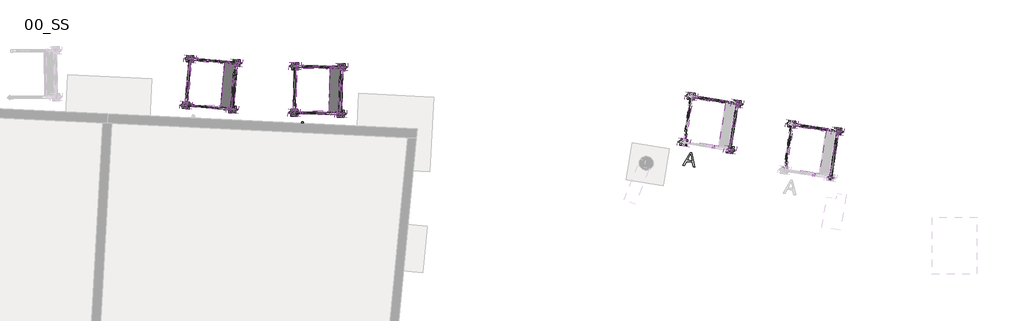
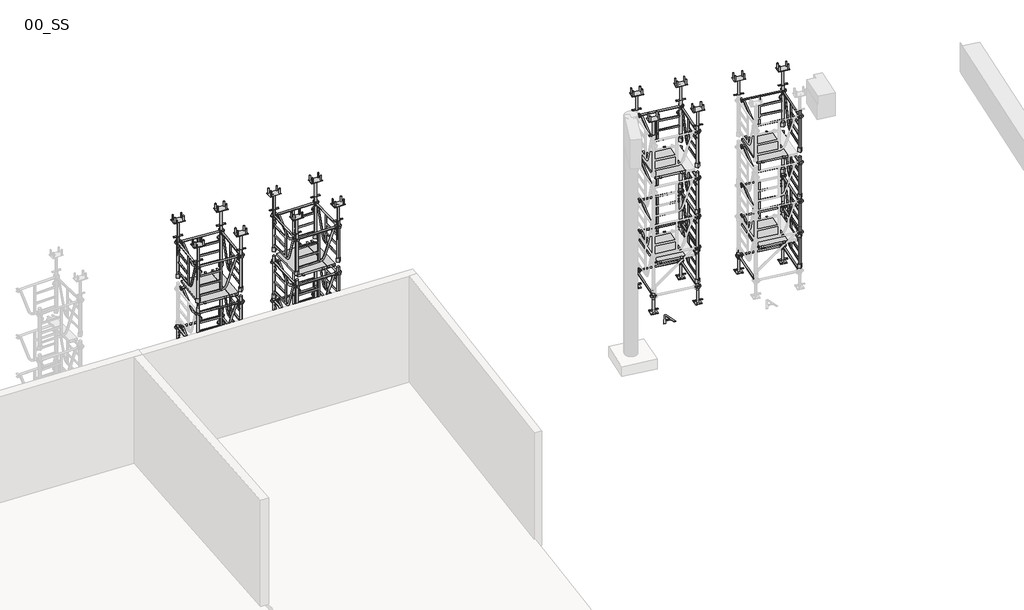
# One storey, part 4 of 4: 103 proxies.
"""IFC4 building model written with IfcOpenShell, lengths in millimetres."""

from ifc_helpers import new_model, si_unit, origin, place, context, project, spatial, transform, mapped, element, save
from components import specialty_equipment_552a99b2, specialty_equipment_3c7041e7, specialty_equipment_34e7ce4f, specialty_equipment_62a0565b, proxy_1_00m_e1a59707, proxy_1m_ea16eeb2, plancher_acier_0_25mx0_65m_c3080953, se_1_00mx1_00m_65cb5320

model = new_model("IFC4")

# Units and contexts
model_context = context("Model", 3, world=origin())
ifc_project = project(units=[si_unit("LENGTHUNIT", "METRE", prefix="MILLI")], contexts=[model_context])

# Site, building, storey
site = spatial("IfcSite", under=ifc_project)
building = spatial("IfcBuilding", under=site)
storey = spatial("IfcBuildingStorey", under=building, Name="00_SS", Elevation=18790.0)

# Proxies
placement = place(None, origin())
specialty_equipment_shape = specialty_equipment_552a99b2(model_context)
element("IfcBuildingElementProxy", 1, Name="MILLS_TOEC_CADRE_S : entree 1m", ObjectType="MILLS_TOEC_CADRE_S : entree 1m", at=placement, inside=storey, context=model_context, shape_type="MappedRepresentation", body=[
    mapped(specialty_equipment_shape, transform((5327.8783331, 16777.4730006, 19371.6), x_axis=(0.9997842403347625, -0.02077192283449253, 0.0), y_axis=(0.02077192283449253, 0.9997842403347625, 0.0), z_axis=(0.0, 0.0, 1.0))),
])
element("IfcBuildingElementProxy", 2, Name="MILLS_TOEC_CADRE_S : entree 1m", ObjectType="MILLS_TOEC_CADRE_S : entree 1m", at=placement, inside=storey, context=model_context, shape_type="MappedRepresentation", body=[
    mapped(specialty_equipment_shape, transform((3002.9416859, 16838.4419934, 19371.6), x_axis=(0.9961946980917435, -0.08715574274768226, 0.0), y_axis=(0.08715574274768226, 0.9961946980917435, 0.0), z_axis=(0.0, 0.0, 1.0))),
])
specialty_equipment_2_shape = specialty_equipment_3c7041e7(model_context)
element("IfcBuildingElementProxy", 3, Name="MILLS_TOEC_PLANCHER_TRAPPE_S : Trappe 1.0m", ObjectType="MILLS_TOEC_PLANCHER_TRAPPE_S : Trappe 1.0m", at=placement, inside=storey, context=model_context, shape_type="MappedRepresentation", body=[
    mapped(specialty_equipment_2_shape, transform((13893.1786414, 16661.799638, 20033.6), x_axis=(-0.987688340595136, 0.15643446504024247, 0.0), y_axis=(-0.15643446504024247, -0.987688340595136, 0.0), z_axis=(0.0, 0.0, 1.0))),
])
element("IfcBuildingElementProxy", 4, Name="MILLS_TOEC_PLANCHER_TRAPPE_S : Trappe 1.0m", ObjectType="MILLS_TOEC_PLANCHER_TRAPPE_S : Trappe 1.0m", at=placement, inside=storey, context=model_context, shape_type="MappedRepresentation", body=[
    mapped(specialty_equipment_2_shape, transform((13893.1786414, 16661.799638, 22233.6), x_axis=(-0.987688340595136, 0.15643446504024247, 0.0), y_axis=(-0.15643446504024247, -0.987688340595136, 0.0), z_axis=(0.0, 0.0, 1.0))),
])
element("IfcBuildingElementProxy", 5, Name="MILLS_TOEC_PLANCHER_TRAPPE_S : Trappe 1.0m", ObjectType="MILLS_TOEC_PLANCHER_TRAPPE_S : Trappe 1.0m", at=placement, inside=storey, context=model_context, shape_type="MappedRepresentation", body=[
    mapped(specialty_equipment_2_shape, transform((11737.9149743, 17255.3748967, 20033.6), x_axis=(-0.987688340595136, 0.15643446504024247, 0.0), y_axis=(-0.15643446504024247, -0.987688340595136, 0.0), z_axis=(0.0, 0.0, 1.0))),
])
element("IfcBuildingElementProxy", 6, Name="MILLS_TOEC_PLANCHER_TRAPPE_S : Trappe 1.0m", ObjectType="MILLS_TOEC_PLANCHER_TRAPPE_S : Trappe 1.0m", at=placement, inside=storey, context=model_context, shape_type="MappedRepresentation", body=[
    mapped(specialty_equipment_2_shape, transform((11737.9149743, 17255.3748967, 22233.6), x_axis=(-0.987688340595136, 0.15643446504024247, 0.0), y_axis=(-0.15643446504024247, -0.987688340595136, 0.0), z_axis=(0.0, 0.0, 1.0))),
])
element("IfcBuildingElementProxy", 7, Name="MILLS_TOEC_PLANCHER_TRAPPE_S : Trappe 1.0m", ObjectType="MILLS_TOEC_PLANCHER_TRAPPE_S : Trappe 1.0m", at=placement, inside=storey, context=model_context, shape_type="MappedRepresentation", body=[
    mapped(specialty_equipment_2_shape, transform((3241.6718591, 17821.544281, 20033.6), x_axis=(-0.9997842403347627, 0.02077192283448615, 0.0), y_axis=(-0.02077192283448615, -0.9997842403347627, 0.0), z_axis=(0.0, 0.0, 1.0))),
])
element("IfcBuildingElementProxy", 8, Name="MILLS_TOEC_PLANCHER_TRAPPE_S : Trappe 1.0m", ObjectType="MILLS_TOEC_PLANCHER_TRAPPE_S : Trappe 1.0m", at=placement, inside=storey, context=model_context, shape_type="MappedRepresentation", body=[
    mapped(specialty_equipment_2_shape, transform((3241.6718591, 17821.544281, 22233.6), x_axis=(-0.9997842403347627, 0.02077192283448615, 0.0), y_axis=(-0.02077192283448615, -0.9997842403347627, 0.0), z_axis=(0.0, 0.0, 1.0))),
])
element("IfcBuildingElementProxy", 9, Name="MILLS_TOEC_PLANCHER_TRAPPE_S : Trappe 1.0m", ObjectType="MILLS_TOEC_PLANCHER_TRAPPE_S : Trappe 1.0m", at=placement, inside=storey, context=model_context, shape_type="MappedRepresentation", body=[
    mapped(specialty_equipment_2_shape, transform((990.7177448, 18018.82206, 20033.6), x_axis=(-0.9961946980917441, 0.0871557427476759, 0.0), y_axis=(-0.0871557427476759, -0.9961946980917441, 0.0), z_axis=(0.0, 0.0, 1.0))),
])
element("IfcBuildingElementProxy", 10, Name="MILLS_TOEC_PLANCHER_TRAPPE_S : Trappe 1.0m", ObjectType="MILLS_TOEC_PLANCHER_TRAPPE_S : Trappe 1.0m", at=placement, inside=storey, context=model_context, shape_type="MappedRepresentation", body=[
    mapped(specialty_equipment_2_shape, transform((990.7177448, 18018.82206, 22233.6), x_axis=(-0.9961946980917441, 0.0871557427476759, 0.0), y_axis=(-0.0871557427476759, -0.9961946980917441, 0.0), z_axis=(0.0, 0.0, 1.0))),
])
specialty_equipment_3_shape = specialty_equipment_34e7ce4f(model_context)
element("IfcBuildingElementProxy", 11, Name="MILLS_TOEC_VERIN_DE_PIED_S : MILLS_TOEC_VERIN_DE_PIED", ObjectType="MILLS_TOEC_VERIN_DE_PIED_S : MILLS_TOEC_VERIN_DE_PIED", at=placement, inside=storey, context=model_context, shape_type="MappedRepresentation", body=[
    mapped(specialty_equipment_3_shape, transform((14591.0410313, 16551.2690939, 18790.0), x_axis=(0.987688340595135, -0.15643446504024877, 0.0), y_axis=(0.15643446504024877, 0.987688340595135, 0.0), z_axis=(0.0, 0.0, 1.0))),
])
element("IfcBuildingElementProxy", 12, Name="MILLS_TOEC_VERIN_DE_PIED_S : MILLS_TOEC_VERIN_DE_PIED", ObjectType="MILLS_TOEC_VERIN_DE_PIED_S : MILLS_TOEC_VERIN_DE_PIED", at=placement, inside=storey, context=model_context, shape_type="MappedRepresentation", body=[
    mapped(specialty_equipment_3_shape, transform((15578.7293719, 16394.8346289, 18790.0), x_axis=(0.987688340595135, -0.15643446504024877, 0.0), y_axis=(0.15643446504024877, 0.987688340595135, 0.0), z_axis=(0.0, 0.0, 1.0))),
])
element("IfcBuildingElementProxy", 13, Name="MILLS_TOEC_VERIN_DE_PIED_S : MILLS_TOEC_VERIN_DE_PIED", ObjectType="MILLS_TOEC_VERIN_DE_PIED_S : MILLS_TOEC_VERIN_DE_PIED", at=placement, inside=storey, context=model_context, shape_type="MappedRepresentation", body=[
    mapped(specialty_equipment_3_shape, transform((12279.3428992, 16157.156012, 18790.0), x_axis=(0.987688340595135, -0.15643446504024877, 0.0), y_axis=(0.15643446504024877, 0.987688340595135, 0.0), z_axis=(0.0, 0.0, 1.0))),
])
element("IfcBuildingElementProxy", 14, Name="MILLS_TOEC_VERIN_DE_PIED_S : MILLS_TOEC_VERIN_DE_PIED", ObjectType="MILLS_TOEC_VERIN_DE_PIED_S : MILLS_TOEC_VERIN_DE_PIED", at=placement, inside=storey, context=model_context, shape_type="MappedRepresentation", body=[
    mapped(specialty_equipment_3_shape, transform((13267.0312398, 16000.721547, 18790.0), x_axis=(0.987688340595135, -0.15643446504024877, 0.0), y_axis=(0.15643446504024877, 0.987688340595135, 0.0), z_axis=(0.0, 0.0, 1.0))),
])
element("IfcBuildingElementProxy", 15, Name="MILLS_TOEC_VERIN_DE_PIED_S : MILLS_TOEC_VERIN_DE_PIED", ObjectType="MILLS_TOEC_VERIN_DE_PIED_S : MILLS_TOEC_VERIN_DE_PIED", at=placement, inside=storey, context=model_context, shape_type="MappedRepresentation", body=[
    mapped(specialty_equipment_3_shape, transform((12435.7773643, 17144.8443526, 18790.0), x_axis=(0.987688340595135, -0.15643446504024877, 0.0), y_axis=(0.15643446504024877, 0.987688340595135, 0.0), z_axis=(0.0, 0.0, 1.0))),
])
element("IfcBuildingElementProxy", 16, Name="MILLS_TOEC_VERIN_DE_PIED_S : MILLS_TOEC_VERIN_DE_PIED", ObjectType="MILLS_TOEC_VERIN_DE_PIED_S : MILLS_TOEC_VERIN_DE_PIED", at=placement, inside=storey, context=model_context, shape_type="MappedRepresentation", body=[
    mapped(specialty_equipment_3_shape, transform((13423.4657048, 16988.4098876, 18790.0), x_axis=(0.987688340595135, -0.15643446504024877, 0.0), y_axis=(0.15643446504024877, 0.987688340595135, 0.0), z_axis=(0.0, 0.0, 1.0))),
])
element("IfcBuildingElementProxy", 17, Name="MILLS_TOEC_VERIN_DE_PIED_S : MILLS_TOEC_VERIN_DE_PIED", ObjectType="MILLS_TOEC_VERIN_DE_PIED_S : MILLS_TOEC_VERIN_DE_PIED", at=placement, inside=storey, context=model_context, shape_type="MappedRepresentation", body=[
    mapped(specialty_equipment_3_shape, transform((3927.3088212, 16807.0834031, 18790.0), x_axis=(0.9997842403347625, -0.02077192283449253, 0.0), y_axis=(0.02077192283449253, 0.9997842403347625, 0.0), z_axis=(0.0, 0.0, 1.0))),
])
element("IfcBuildingElementProxy", 18, Name="MILLS_TOEC_VERIN_DE_PIED_S : MILLS_TOEC_VERIN_DE_PIED", ObjectType="MILLS_TOEC_VERIN_DE_PIED_S : MILLS_TOEC_VERIN_DE_PIED", at=placement, inside=storey, context=model_context, shape_type="MappedRepresentation", body=[
    mapped(specialty_equipment_3_shape, transform((4927.0930615, 16786.3114803, 18790.0), x_axis=(0.9997842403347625, -0.02077192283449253, 0.0), y_axis=(0.02077192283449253, 0.9997842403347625, 0.0), z_axis=(0.0, 0.0, 1.0))),
])
element("IfcBuildingElementProxy", 19, Name="MILLS_TOEC_VERIN_DE_PIED_S : MILLS_TOEC_VERIN_DE_PIED", ObjectType="MILLS_TOEC_VERIN_DE_PIED_S : MILLS_TOEC_VERIN_DE_PIED", at=placement, inside=storey, context=model_context, shape_type="MappedRepresentation", body=[
    mapped(specialty_equipment_3_shape, transform((3948.080744, 17806.8676435, 18790.0), x_axis=(0.9997842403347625, -0.02077192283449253, 0.0), y_axis=(0.02077192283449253, 0.9997842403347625, 0.0), z_axis=(0.0, 0.0, 1.0))),
])
element("IfcBuildingElementProxy", 20, Name="MILLS_TOEC_VERIN_DE_PIED_S : MILLS_TOEC_VERIN_DE_PIED", ObjectType="MILLS_TOEC_VERIN_DE_PIED_S : MILLS_TOEC_VERIN_DE_PIED", at=placement, inside=storey, context=model_context, shape_type="MappedRepresentation", body=[
    mapped(specialty_equipment_3_shape, transform((4947.8649843, 17786.0957206, 18790.0), x_axis=(0.9997842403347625, -0.02077192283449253, 0.0), y_axis=(0.02077192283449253, 0.9997842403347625, 0.0), z_axis=(0.0, 0.0, 1.0))),
])
element("IfcBuildingElementProxy", 21, Name="MILLS_TOEC_VERIN_DE_PIED_S : MILLS_TOEC_VERIN_DE_PIED", ObjectType="MILLS_TOEC_VERIN_DE_PIED_S : MILLS_TOEC_VERIN_DE_PIED", at=placement, inside=storey, context=model_context, shape_type="MappedRepresentation", body=[
    mapped(specialty_equipment_3_shape, transform((1607.4346552, 16961.0464842, 18790.0), x_axis=(0.9961946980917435, -0.08715574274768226, 0.0), y_axis=(0.08715574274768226, 0.9961946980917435, 0.0), z_axis=(0.0, 0.0, 1.0))),
])
element("IfcBuildingElementProxy", 22, Name="MILLS_TOEC_VERIN_DE_PIED_S : MILLS_TOEC_VERIN_DE_PIED", ObjectType="MILLS_TOEC_VERIN_DE_PIED_S : MILLS_TOEC_VERIN_DE_PIED", at=placement, inside=storey, context=model_context, shape_type="MappedRepresentation", body=[
    mapped(specialty_equipment_3_shape, transform((2603.6293533, 16873.8907414, 18790.0), x_axis=(0.9961946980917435, -0.08715574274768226, 0.0), y_axis=(0.08715574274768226, 0.9961946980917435, 0.0), z_axis=(0.0, 0.0, 1.0))),
])
element("IfcBuildingElementProxy", 23, Name="MILLS_TOEC_VERIN_DE_PIED_S : MILLS_TOEC_VERIN_DE_PIED", ObjectType="MILLS_TOEC_VERIN_DE_PIED_S : MILLS_TOEC_VERIN_DE_PIED", at=placement, inside=storey, context=model_context, shape_type="MappedRepresentation", body=[
    mapped(specialty_equipment_3_shape, transform((1694.590398, 17957.2411823, 18790.0), x_axis=(0.9961946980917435, -0.08715574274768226, 0.0), y_axis=(0.08715574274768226, 0.9961946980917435, 0.0), z_axis=(0.0, 0.0, 1.0))),
])
element("IfcBuildingElementProxy", 24, Name="MILLS_TOEC_VERIN_DE_PIED_S : MILLS_TOEC_VERIN_DE_PIED", ObjectType="MILLS_TOEC_VERIN_DE_PIED_S : MILLS_TOEC_VERIN_DE_PIED", at=placement, inside=storey, context=model_context, shape_type="MappedRepresentation", body=[
    mapped(specialty_equipment_3_shape, transform((2690.7850961, 17870.0854395, 18790.0), x_axis=(0.9961946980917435, -0.08715574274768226, 0.0), y_axis=(0.08715574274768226, 0.9961946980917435, 0.0), z_axis=(0.0, 0.0, 1.0))),
])
specialty_equipment_4_shape = specialty_equipment_62a0565b(model_context)
element("IfcBuildingElementProxy", 25, Name="MILLS_TOEC_VERIN_DE_TETE_2_ENTREES_S : MILLS_TOEC_VERIN_DE_TETE_2_ENTREES_S", ObjectType="MILLS_TOEC_VERIN_DE_TETE_2_ENTREES_S : MILLS_TOEC_VERIN_DE_TETE_2_ENTREES_S", at=placement, inside=storey, context=model_context, shape_type="MappedRepresentation", body=[
    mapped(specialty_equipment_4_shape, transform((14591.0410313, 16551.2690939, 23532.0), x_axis=(0.987688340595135, -0.15643446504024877, 0.0), y_axis=(0.15643446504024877, 0.987688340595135, 0.0), z_axis=(0.0, 0.0, 1.0))),
])
element("IfcBuildingElementProxy", 26, Name="MILLS_TOEC_VERIN_DE_TETE_2_ENTREES_S : MILLS_TOEC_VERIN_DE_TETE_2_ENTREES_S", ObjectType="MILLS_TOEC_VERIN_DE_TETE_2_ENTREES_S : MILLS_TOEC_VERIN_DE_TETE_2_ENTREES_S", at=placement, inside=storey, context=model_context, shape_type="MappedRepresentation", body=[
    mapped(specialty_equipment_4_shape, transform((15578.7293719, 16394.8346289, 23532.0), x_axis=(0.987688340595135, -0.15643446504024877, 0.0), y_axis=(0.15643446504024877, 0.987688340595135, 0.0), z_axis=(0.0, 0.0, 1.0))),
])
element("IfcBuildingElementProxy", 27, Name="MILLS_TOEC_VERIN_DE_TETE_2_ENTREES_S : MILLS_TOEC_VERIN_DE_TETE_2_ENTREES_S", ObjectType="MILLS_TOEC_VERIN_DE_TETE_2_ENTREES_S : MILLS_TOEC_VERIN_DE_TETE_2_ENTREES_S", at=placement, inside=storey, context=model_context, shape_type="MappedRepresentation", body=[
    mapped(specialty_equipment_4_shape, transform((12279.3428992, 16157.156012, 23532.0), x_axis=(0.987688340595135, -0.15643446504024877, 0.0), y_axis=(0.15643446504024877, 0.987688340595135, 0.0), z_axis=(0.0, 0.0, 1.0))),
])
element("IfcBuildingElementProxy", 28, Name="MILLS_TOEC_VERIN_DE_TETE_2_ENTREES_S : MILLS_TOEC_VERIN_DE_TETE_2_ENTREES_S", ObjectType="MILLS_TOEC_VERIN_DE_TETE_2_ENTREES_S : MILLS_TOEC_VERIN_DE_TETE_2_ENTREES_S", at=placement, inside=storey, context=model_context, shape_type="MappedRepresentation", body=[
    mapped(specialty_equipment_4_shape, transform((13267.0312398, 16000.721547, 23532.0), x_axis=(0.987688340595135, -0.15643446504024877, 0.0), y_axis=(0.15643446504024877, 0.987688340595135, 0.0), z_axis=(0.0, 0.0, 1.0))),
])
element("IfcBuildingElementProxy", 29, Name="MILLS_TOEC_VERIN_DE_TETE_2_ENTREES_S : MILLS_TOEC_VERIN_DE_TETE_2_ENTREES_S", ObjectType="MILLS_TOEC_VERIN_DE_TETE_2_ENTREES_S : MILLS_TOEC_VERIN_DE_TETE_2_ENTREES_S", at=placement, inside=storey, context=model_context, shape_type="MappedRepresentation", body=[
    mapped(specialty_equipment_4_shape, transform((12435.7773643, 17144.8443526, 23532.0), x_axis=(0.987688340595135, -0.15643446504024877, 0.0), y_axis=(0.15643446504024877, 0.987688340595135, 0.0), z_axis=(0.0, 0.0, 1.0))),
])
element("IfcBuildingElementProxy", 30, Name="MILLS_TOEC_VERIN_DE_TETE_2_ENTREES_S : MILLS_TOEC_VERIN_DE_TETE_2_ENTREES_S", ObjectType="MILLS_TOEC_VERIN_DE_TETE_2_ENTREES_S : MILLS_TOEC_VERIN_DE_TETE_2_ENTREES_S", at=placement, inside=storey, context=model_context, shape_type="MappedRepresentation", body=[
    mapped(specialty_equipment_4_shape, transform((13423.4657048, 16988.4098876, 23532.0), x_axis=(0.987688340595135, -0.15643446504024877, 0.0), y_axis=(0.15643446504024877, 0.987688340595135, 0.0), z_axis=(0.0, 0.0, 1.0))),
])
element("IfcBuildingElementProxy", 31, Name="MILLS_TOEC_VERIN_DE_TETE_2_ENTREES_S : MILLS_TOEC_VERIN_DE_TETE_2_ENTREES_S", ObjectType="MILLS_TOEC_VERIN_DE_TETE_2_ENTREES_S : MILLS_TOEC_VERIN_DE_TETE_2_ENTREES_S", at=placement, inside=storey, context=model_context, shape_type="MappedRepresentation", body=[
    mapped(specialty_equipment_4_shape, transform((3927.3088212, 16807.0834031, 23532.0), x_axis=(0.9997842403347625, -0.02077192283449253, 0.0), y_axis=(0.02077192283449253, 0.9997842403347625, 0.0), z_axis=(0.0, 0.0, 1.0))),
])
element("IfcBuildingElementProxy", 32, Name="MILLS_TOEC_VERIN_DE_TETE_2_ENTREES_S : MILLS_TOEC_VERIN_DE_TETE_2_ENTREES_S", ObjectType="MILLS_TOEC_VERIN_DE_TETE_2_ENTREES_S : MILLS_TOEC_VERIN_DE_TETE_2_ENTREES_S", at=placement, inside=storey, context=model_context, shape_type="MappedRepresentation", body=[
    mapped(specialty_equipment_4_shape, transform((4927.0930615, 16786.3114803, 23532.0), x_axis=(0.9997842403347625, -0.02077192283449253, 0.0), y_axis=(0.02077192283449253, 0.9997842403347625, 0.0), z_axis=(0.0, 0.0, 1.0))),
])
element("IfcBuildingElementProxy", 33, Name="MILLS_TOEC_VERIN_DE_TETE_2_ENTREES_S : MILLS_TOEC_VERIN_DE_TETE_2_ENTREES_S", ObjectType="MILLS_TOEC_VERIN_DE_TETE_2_ENTREES_S : MILLS_TOEC_VERIN_DE_TETE_2_ENTREES_S", at=placement, inside=storey, context=model_context, shape_type="MappedRepresentation", body=[
    mapped(specialty_equipment_4_shape, transform((3948.080744, 17806.8676435, 23532.0), x_axis=(0.9997842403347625, -0.02077192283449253, 0.0), y_axis=(0.02077192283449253, 0.9997842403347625, 0.0), z_axis=(0.0, 0.0, 1.0))),
])
element("IfcBuildingElementProxy", 34, Name="MILLS_TOEC_VERIN_DE_TETE_2_ENTREES_S : MILLS_TOEC_VERIN_DE_TETE_2_ENTREES_S", ObjectType="MILLS_TOEC_VERIN_DE_TETE_2_ENTREES_S : MILLS_TOEC_VERIN_DE_TETE_2_ENTREES_S", at=placement, inside=storey, context=model_context, shape_type="MappedRepresentation", body=[
    mapped(specialty_equipment_4_shape, transform((4947.8649843, 17786.0957206, 23532.0), x_axis=(0.9997842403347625, -0.02077192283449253, 0.0), y_axis=(0.02077192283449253, 0.9997842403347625, 0.0), z_axis=(0.0, 0.0, 1.0))),
])
element("IfcBuildingElementProxy", 35, Name="MILLS_TOEC_VERIN_DE_TETE_2_ENTREES_S : MILLS_TOEC_VERIN_DE_TETE_2_ENTREES_S", ObjectType="MILLS_TOEC_VERIN_DE_TETE_2_ENTREES_S : MILLS_TOEC_VERIN_DE_TETE_2_ENTREES_S", at=placement, inside=storey, context=model_context, shape_type="MappedRepresentation", body=[
    mapped(specialty_equipment_4_shape, transform((1607.4346552, 16961.0464842, 23532.0), x_axis=(0.9961946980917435, -0.08715574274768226, 0.0), y_axis=(0.08715574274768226, 0.9961946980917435, 0.0), z_axis=(0.0, 0.0, 1.0))),
])
element("IfcBuildingElementProxy", 36, Name="MILLS_TOEC_VERIN_DE_TETE_2_ENTREES_S : MILLS_TOEC_VERIN_DE_TETE_2_ENTREES_S", ObjectType="MILLS_TOEC_VERIN_DE_TETE_2_ENTREES_S : MILLS_TOEC_VERIN_DE_TETE_2_ENTREES_S", at=placement, inside=storey, context=model_context, shape_type="MappedRepresentation", body=[
    mapped(specialty_equipment_4_shape, transform((2603.6293533, 16873.8907414, 23532.0), x_axis=(0.9961946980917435, -0.08715574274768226, 0.0), y_axis=(0.08715574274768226, 0.9961946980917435, 0.0), z_axis=(0.0, 0.0, 1.0))),
])
element("IfcBuildingElementProxy", 37, Name="MILLS_TOEC_VERIN_DE_TETE_2_ENTREES_S : MILLS_TOEC_VERIN_DE_TETE_2_ENTREES_S", ObjectType="MILLS_TOEC_VERIN_DE_TETE_2_ENTREES_S : MILLS_TOEC_VERIN_DE_TETE_2_ENTREES_S", at=placement, inside=storey, context=model_context, shape_type="MappedRepresentation", body=[
    mapped(specialty_equipment_4_shape, transform((1694.590398, 17957.2411823, 23532.0), x_axis=(0.9961946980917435, -0.08715574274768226, 0.0), y_axis=(0.08715574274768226, 0.9961946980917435, 0.0), z_axis=(0.0, 0.0, 1.0))),
])
element("IfcBuildingElementProxy", 38, Name="MILLS_TOEC_VERIN_DE_TETE_2_ENTREES_S : MILLS_TOEC_VERIN_DE_TETE_2_ENTREES_S", ObjectType="MILLS_TOEC_VERIN_DE_TETE_2_ENTREES_S : MILLS_TOEC_VERIN_DE_TETE_2_ENTREES_S", at=placement, inside=storey, context=model_context, shape_type="MappedRepresentation", body=[
    mapped(specialty_equipment_4_shape, transform((2690.7850961, 17870.0854395, 23532.0), x_axis=(0.9961946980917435, -0.08715574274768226, 0.0), y_axis=(0.08715574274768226, 0.9961946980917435, 0.0), z_axis=(0.0, 0.0, 1.0))),
])
proxy_1_00m_shape = proxy_1_00m_e1a59707(model_context)
element("IfcBuildingElementProxy", 39, Name="MILLS_TOEC_MOISE_S : 1.00m", ObjectType="MILLS_TOEC_MOISE_S : 1.00m", at=placement, inside=storey, context=model_context, shape_type="MappedRepresentation", body=[
    mapped(proxy_1_00m_shape, transform((15974.676235, 16332.1228066, 19211.6), x_axis=(0.987688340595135, -0.15643446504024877, 0.0), y_axis=(0.15643446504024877, 0.987688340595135, 0.0), z_axis=(0.0, 0.0, 1.0))),
])
element("IfcBuildingElementProxy", 40, Name="MILLS_TOEC_MOISE_S : 1.00m", ObjectType="MILLS_TOEC_MOISE_S : 1.00m", at=placement, inside=storey, context=model_context, shape_type="MappedRepresentation", body=[
    mapped(proxy_1_00m_shape, transform((14565.9328992, 17068.0897546, 19211.6), x_axis=(0.15643446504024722, 0.9876883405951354, 0.0), y_axis=(-0.9876883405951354, 0.15643446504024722, 0.0), z_axis=(0.0, 0.0, 1.0))),
])
element("IfcBuildingElementProxy", 41, Name="MILLS_TOEC_MOISE_S : 1.00m", ObjectType="MILLS_TOEC_MOISE_S : 1.00m", at=placement, inside=storey, context=model_context, shape_type="MappedRepresentation", body=[
    mapped(proxy_1_00m_shape, transform((15553.6212398, 16911.6552895, 19211.6), x_axis=(0.15643446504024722, 0.9876883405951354, 0.0), y_axis=(-0.9876883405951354, 0.15643446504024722, 0.0), z_axis=(0.0, 0.0, 1.0))),
])
element("IfcBuildingElementProxy", 42, Name="MILLS_TOEC_MOISE_S : 1.00m", ObjectType="MILLS_TOEC_MOISE_S : 1.00m", at=placement, inside=storey, context=model_context, shape_type="MappedRepresentation", body=[
    mapped(proxy_1_00m_shape, transform((13819.4125679, 16925.6980653, 19211.6), x_axis=(0.987688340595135, -0.15643446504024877, 0.0), y_axis=(0.15643446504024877, 0.987688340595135, 0.0), z_axis=(0.0, 0.0, 1.0))),
])
element("IfcBuildingElementProxy", 43, Name="MILLS_TOEC_MOISE_S : 1.00m", ObjectType="MILLS_TOEC_MOISE_S : 1.00m", at=placement, inside=storey, context=model_context, shape_type="MappedRepresentation", body=[
    mapped(proxy_1_00m_shape, transform((12410.6692321, 17661.6650132, 19211.6), x_axis=(0.15643446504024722, 0.9876883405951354, 0.0), y_axis=(-0.9876883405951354, 0.15643446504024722, 0.0), z_axis=(0.0, 0.0, 1.0))),
])
element("IfcBuildingElementProxy", 44, Name="MILLS_TOEC_MOISE_S : 1.00m", ObjectType="MILLS_TOEC_MOISE_S : 1.00m", at=placement, inside=storey, context=model_context, shape_type="MappedRepresentation", body=[
    mapped(proxy_1_00m_shape, transform((13398.3575727, 17505.2305482, 19211.6), x_axis=(0.15643446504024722, 0.9876883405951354, 0.0), y_axis=(-0.9876883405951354, 0.15643446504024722, 0.0), z_axis=(0.0, 0.0, 1.0))),
])
element("IfcBuildingElementProxy", 45, Name="MILLS_TOEC_MOISE_S : 1.00m", ObjectType="MILLS_TOEC_MOISE_S : 1.00m", at=placement, inside=storey, context=model_context, shape_type="MappedRepresentation", body=[
    mapped(proxy_1_00m_shape, transform((5327.8889578, 16777.9843822, 19211.6), x_axis=(0.9997842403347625, -0.02077192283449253, 0.0), y_axis=(0.02077192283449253, 0.9997842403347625, 0.0), z_axis=(0.0, 0.0, 1.0))),
])
element("IfcBuildingElementProxy", 46, Name="MILLS_TOEC_MOISE_S : 1.00m", ObjectType="MILLS_TOEC_MOISE_S : 1.00m", at=placement, inside=storey, context=model_context, shape_type="MappedRepresentation", body=[
    mapped(proxy_1_00m_shape, transform((5348.6608807, 17777.7686226, 19211.6), x_axis=(0.9997842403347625, -0.02077192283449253, 0.0), y_axis=(0.02077192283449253, 0.9997842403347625, 0.0), z_axis=(0.0, 0.0, 1.0))),
])
element("IfcBuildingElementProxy", 47, Name="MILLS_TOEC_MOISE_S : 1.00m", ObjectType="MILLS_TOEC_MOISE_S : 1.00m", at=placement, inside=storey, context=model_context, shape_type="MappedRepresentation", body=[
    mapped(proxy_1_00m_shape, transform((3852.9775669, 18315.4828214, 19211.6), x_axis=(0.020771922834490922, 0.9997842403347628, 0.0), y_axis=(-0.9997842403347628, 0.020771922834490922, 0.0), z_axis=(0.0, 0.0, 1.0))),
])
element("IfcBuildingElementProxy", 48, Name="MILLS_TOEC_MOISE_S : 1.00m", ObjectType="MILLS_TOEC_MOISE_S : 1.00m", at=placement, inside=storey, context=model_context, shape_type="MappedRepresentation", body=[
    mapped(proxy_1_00m_shape, transform((4852.7618072, 18294.7108986, 19211.6), x_axis=(0.020771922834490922, 0.9997842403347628, 0.0), y_axis=(-0.9997842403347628, 0.020771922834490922, 0.0), z_axis=(0.0, 0.0, 1.0))),
])
element("IfcBuildingElementProxy", 49, Name="MILLS_TOEC_MOISE_S : 1.00m", ObjectType="MILLS_TOEC_MOISE_S : 1.00m", at=placement, inside=storey, context=model_context, shape_type="MappedRepresentation", body=[
    mapped(proxy_1_00m_shape, transform((3002.9862653, 16838.9515389, 19211.6), x_axis=(0.9961946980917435, -0.08715574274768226, 0.0), y_axis=(0.08715574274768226, 0.9961946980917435, 0.0), z_axis=(0.0, 0.0, 1.0))),
])
element("IfcBuildingElementProxy", 50, Name="MILLS_TOEC_MOISE_S : 1.00m", ObjectType="MILLS_TOEC_MOISE_S : 1.00m", at=placement, inside=storey, context=model_context, shape_type="MappedRepresentation", body=[
    mapped(proxy_1_00m_shape, transform((3090.1420081, 17835.146237, 19211.6), x_axis=(0.9961946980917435, -0.08715574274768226, 0.0), y_axis=(0.08715574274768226, 0.9961946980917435, 0.0), z_axis=(0.0, 0.0, 1.0))),
])
element("IfcBuildingElementProxy", 51, Name="MILLS_TOEC_MOISE_S : 1.00m", ObjectType="MILLS_TOEC_MOISE_S : 1.00m", at=placement, inside=storey, context=model_context, shape_type="MappedRepresentation", body=[
    mapped(proxy_1_00m_shape, transform((1633.4918411, 18471.051439, 19211.6), x_axis=(0.08715574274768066, 0.9961946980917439, 0.0), y_axis=(-0.9961946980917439, 0.08715574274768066, 0.0), z_axis=(0.0, 0.0, 1.0))),
])
element("IfcBuildingElementProxy", 52, Name="MILLS_TOEC_MOISE_S : 1.00m", ObjectType="MILLS_TOEC_MOISE_S : 1.00m", at=placement, inside=storey, context=model_context, shape_type="MappedRepresentation", body=[
    mapped(proxy_1_00m_shape, transform((2629.6865392, 18383.8956962, 19211.6), x_axis=(0.08715574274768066, 0.9961946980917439, 0.0), y_axis=(-0.9961946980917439, 0.08715574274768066, 0.0), z_axis=(0.0, 0.0, 1.0))),
])
proxy_1m_shape = proxy_1m_ea16eeb2(model_context)
element("IfcBuildingElementProxy", 53, Name="MILLS_TOEC_CADRE_S : 1m", ObjectType="MILLS_TOEC_CADRE_S : 1m", at=placement, inside=storey, context=model_context, shape_type="MappedRepresentation", body=[
    mapped(proxy_1m_shape, transform((15554.1264344, 16911.5752745, 21171.6), x_axis=(0.15643446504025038, 0.987688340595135, 0.0), y_axis=(-0.987688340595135, 0.15643446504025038, 0.0), z_axis=(0.0, 0.0, 1.0))),
])
element("IfcBuildingElementProxy", 54, Name="MILLS_TOEC_CADRE_S : 1m", ObjectType="MILLS_TOEC_CADRE_S : 1m", at=placement, inside=storey, context=model_context, shape_type="MappedRepresentation", body=[
    mapped(proxy_1m_shape, transform((13986.4804313, 16647.539954, 21171.6), x_axis=(-0.9876883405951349, 0.15643446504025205, 0.0), y_axis=(-0.15643446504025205, -0.9876883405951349, 0.0), z_axis=(0.0, 0.0, 1.0))),
])
element("IfcBuildingElementProxy", 55, Name="MILLS_TOEC_CADRE_S : 1m", ObjectType="MILLS_TOEC_CADRE_S : 1m", at=placement, inside=storey, context=model_context, shape_type="MappedRepresentation", body=[
    mapped(proxy_1m_shape, transform((15554.1264344, 16911.5752745, 20171.6), x_axis=(0.15643446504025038, 0.987688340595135, 0.0), y_axis=(-0.987688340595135, 0.15643446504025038, 0.0), z_axis=(0.0, 0.0, 1.0))),
])
element("IfcBuildingElementProxy", 56, Name="MILLS_TOEC_CADRE_S : 1m", ObjectType="MILLS_TOEC_CADRE_S : 1m", at=placement, inside=storey, context=model_context, shape_type="MappedRepresentation", body=[
    mapped(proxy_1m_shape, transform((13986.4804313, 16647.539954, 20171.6), x_axis=(-0.9876883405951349, 0.15643446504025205, 0.0), y_axis=(-0.15643446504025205, -0.9876883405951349, 0.0), z_axis=(0.0, 0.0, 1.0))),
])
element("IfcBuildingElementProxy", 57, Name="MILLS_TOEC_CADRE_S : 1m", ObjectType="MILLS_TOEC_CADRE_S : 1m", at=placement, inside=storey, context=model_context, shape_type="MappedRepresentation", body=[
    mapped(proxy_1m_shape, transform((15554.1264344, 16911.5752745, 19371.6), x_axis=(0.15643446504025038, 0.987688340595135, 0.0), y_axis=(-0.987688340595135, 0.15643446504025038, 0.0), z_axis=(0.0, 0.0, 1.0))),
])
element("IfcBuildingElementProxy", 58, Name="MILLS_TOEC_CADRE_S : 1m", ObjectType="MILLS_TOEC_CADRE_S : 1m", at=placement, inside=storey, context=model_context, shape_type="MappedRepresentation", body=[
    mapped(proxy_1m_shape, transform((13986.4804313, 16647.539954, 19371.6), x_axis=(-0.9876883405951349, 0.15643446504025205, 0.0), y_axis=(-0.15643446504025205, -0.9876883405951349, 0.0), z_axis=(0.0, 0.0, 1.0))),
])
element("IfcBuildingElementProxy", 59, Name="MILLS_TOEC_CADRE_S : 1m", ObjectType="MILLS_TOEC_CADRE_S : 1m", at=placement, inside=storey, context=model_context, shape_type="MappedRepresentation", body=[
    mapped(proxy_1m_shape, transform((15554.1264344, 16911.5752745, 22371.6), x_axis=(0.15643446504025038, 0.987688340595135, 0.0), y_axis=(-0.987688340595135, 0.15643446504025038, 0.0), z_axis=(0.0, 0.0, 1.0))),
])
element("IfcBuildingElementProxy", 60, Name="MILLS_TOEC_CADRE_S : 1m", ObjectType="MILLS_TOEC_CADRE_S : 1m", at=placement, inside=storey, context=model_context, shape_type="MappedRepresentation", body=[
    mapped(proxy_1m_shape, transform((13986.4804313, 16647.539954, 22371.6), x_axis=(-0.9876883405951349, 0.15643446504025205, 0.0), y_axis=(-0.15643446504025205, -0.9876883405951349, 0.0), z_axis=(0.0, 0.0, 1.0))),
])
element("IfcBuildingElementProxy", 61, Name="MILLS_TOEC_CADRE_S : 1m", ObjectType="MILLS_TOEC_CADRE_S : 1m", at=placement, inside=storey, context=model_context, shape_type="MappedRepresentation", body=[
    mapped(proxy_1m_shape, transform((13398.8627674, 17505.1505332, 21171.6), x_axis=(0.15643446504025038, 0.987688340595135, 0.0), y_axis=(-0.987688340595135, 0.15643446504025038, 0.0), z_axis=(0.0, 0.0, 1.0))),
])
element("IfcBuildingElementProxy", 62, Name="MILLS_TOEC_CADRE_S : 1m", ObjectType="MILLS_TOEC_CADRE_S : 1m", at=placement, inside=storey, context=model_context, shape_type="MappedRepresentation", body=[
    mapped(proxy_1m_shape, transform((11831.2167642, 17241.1152127, 21171.6), x_axis=(-0.9876883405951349, 0.15643446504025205, 0.0), y_axis=(-0.15643446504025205, -0.9876883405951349, 0.0), z_axis=(0.0, 0.0, 1.0))),
])
element("IfcBuildingElementProxy", 63, Name="MILLS_TOEC_CADRE_S : 1m", ObjectType="MILLS_TOEC_CADRE_S : 1m", at=placement, inside=storey, context=model_context, shape_type="MappedRepresentation", body=[
    mapped(proxy_1m_shape, transform((13398.8627674, 17505.1505332, 20171.6), x_axis=(0.15643446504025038, 0.987688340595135, 0.0), y_axis=(-0.987688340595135, 0.15643446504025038, 0.0), z_axis=(0.0, 0.0, 1.0))),
])
element("IfcBuildingElementProxy", 64, Name="MILLS_TOEC_CADRE_S : 1m", ObjectType="MILLS_TOEC_CADRE_S : 1m", at=placement, inside=storey, context=model_context, shape_type="MappedRepresentation", body=[
    mapped(proxy_1m_shape, transform((11831.2167642, 17241.1152127, 20171.6), x_axis=(-0.9876883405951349, 0.15643446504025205, 0.0), y_axis=(-0.15643446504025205, -0.9876883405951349, 0.0), z_axis=(0.0, 0.0, 1.0))),
])
element("IfcBuildingElementProxy", 65, Name="MILLS_TOEC_CADRE_S : 1m", ObjectType="MILLS_TOEC_CADRE_S : 1m", at=placement, inside=storey, context=model_context, shape_type="MappedRepresentation", body=[
    mapped(proxy_1m_shape, transform((13398.8627674, 17505.1505332, 19371.6), x_axis=(0.15643446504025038, 0.987688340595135, 0.0), y_axis=(-0.987688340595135, 0.15643446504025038, 0.0), z_axis=(0.0, 0.0, 1.0))),
])
element("IfcBuildingElementProxy", 66, Name="MILLS_TOEC_CADRE_S : 1m", ObjectType="MILLS_TOEC_CADRE_S : 1m", at=placement, inside=storey, context=model_context, shape_type="MappedRepresentation", body=[
    mapped(proxy_1m_shape, transform((11831.2167642, 17241.1152127, 19371.6), x_axis=(-0.9876883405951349, 0.15643446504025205, 0.0), y_axis=(-0.15643446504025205, -0.9876883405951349, 0.0), z_axis=(0.0, 0.0, 1.0))),
])
element("IfcBuildingElementProxy", 67, Name="MILLS_TOEC_CADRE_S : 1m", ObjectType="MILLS_TOEC_CADRE_S : 1m", at=placement, inside=storey, context=model_context, shape_type="MappedRepresentation", body=[
    mapped(proxy_1m_shape, transform((13398.8627674, 17505.1505332, 22371.6), x_axis=(0.15643446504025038, 0.987688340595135, 0.0), y_axis=(-0.987688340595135, 0.15643446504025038, 0.0), z_axis=(0.0, 0.0, 1.0))),
])
element("IfcBuildingElementProxy", 68, Name="MILLS_TOEC_CADRE_S : 1m", ObjectType="MILLS_TOEC_CADRE_S : 1m", at=placement, inside=storey, context=model_context, shape_type="MappedRepresentation", body=[
    mapped(proxy_1m_shape, transform((11831.2167642, 17241.1152127, 22371.6), x_axis=(-0.9876883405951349, 0.15643446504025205, 0.0), y_axis=(-0.15643446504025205, -0.9876883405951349, 0.0), z_axis=(0.0, 0.0, 1.0))),
])
element("IfcBuildingElementProxy", 69, Name="MILLS_TOEC_CADRE_S : 1m", ObjectType="MILLS_TOEC_CADRE_S : 1m", at=placement, inside=storey, context=model_context, shape_type="MappedRepresentation", body=[
    mapped(proxy_1m_shape, transform((5327.8783331, 16777.4730006, 21171.6), x_axis=(0.9997842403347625, -0.02077192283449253, 0.0), y_axis=(0.02077192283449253, 0.9997842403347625, 0.0), z_axis=(0.0, 0.0, 1.0))),
])
element("IfcBuildingElementProxy", 70, Name="MILLS_TOEC_CADRE_S : 1m", ObjectType="MILLS_TOEC_CADRE_S : 1m", at=placement, inside=storey, context=model_context, shape_type="MappedRepresentation", body=[
    mapped(proxy_1m_shape, transform((4853.2731888, 18294.7002739, 21171.6), x_axis=(0.020771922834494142, 0.9997842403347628, 0.0), y_axis=(-0.9997842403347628, 0.020771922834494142, 0.0), z_axis=(0.0, 0.0, 1.0))),
])
element("IfcBuildingElementProxy", 71, Name="MILLS_TOEC_CADRE_S : 1m", ObjectType="MILLS_TOEC_CADRE_S : 1m", at=placement, inside=storey, context=model_context, shape_type="MappedRepresentation", body=[
    mapped(proxy_1m_shape, transform((3336.0459155, 17820.0951296, 21171.6), x_axis=(-0.9997842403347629, 0.02077192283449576, 0.0), y_axis=(-0.02077192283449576, -0.9997842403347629, 0.0), z_axis=(0.0, 0.0, 1.0))),
])
element("IfcBuildingElementProxy", 72, Name="MILLS_TOEC_CADRE_S : 1m", ObjectType="MILLS_TOEC_CADRE_S : 1m", at=placement, inside=storey, context=model_context, shape_type="MappedRepresentation", body=[
    mapped(proxy_1m_shape, transform((3810.6510599, 16302.8678563, 21171.6), x_axis=(-0.020771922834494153, -0.9997842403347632, 0.0), y_axis=(0.9997842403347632, -0.020771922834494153, 0.0), z_axis=(0.0, 0.0, 1.0))),
])
element("IfcBuildingElementProxy", 73, Name="MILLS_TOEC_CADRE_S : 1m", ObjectType="MILLS_TOEC_CADRE_S : 1m", at=placement, inside=storey, context=model_context, shape_type="MappedRepresentation", body=[
    mapped(proxy_1m_shape, transform((5327.8783331, 16777.4730006, 20171.6), x_axis=(0.9997842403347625, -0.02077192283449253, 0.0), y_axis=(0.02077192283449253, 0.9997842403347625, 0.0), z_axis=(0.0, 0.0, 1.0))),
])
element("IfcBuildingElementProxy", 74, Name="MILLS_TOEC_CADRE_S : 1m", ObjectType="MILLS_TOEC_CADRE_S : 1m", at=placement, inside=storey, context=model_context, shape_type="MappedRepresentation", body=[
    mapped(proxy_1m_shape, transform((4853.2731888, 18294.7002739, 20171.6), x_axis=(0.020771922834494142, 0.9997842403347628, 0.0), y_axis=(-0.9997842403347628, 0.020771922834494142, 0.0), z_axis=(0.0, 0.0, 1.0))),
])
element("IfcBuildingElementProxy", 75, Name="MILLS_TOEC_CADRE_S : 1m", ObjectType="MILLS_TOEC_CADRE_S : 1m", at=placement, inside=storey, context=model_context, shape_type="MappedRepresentation", body=[
    mapped(proxy_1m_shape, transform((3336.0459155, 17820.0951296, 20171.6), x_axis=(-0.9997842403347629, 0.02077192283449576, 0.0), y_axis=(-0.02077192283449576, -0.9997842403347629, 0.0), z_axis=(0.0, 0.0, 1.0))),
])
element("IfcBuildingElementProxy", 76, Name="MILLS_TOEC_CADRE_S : 1m", ObjectType="MILLS_TOEC_CADRE_S : 1m", at=placement, inside=storey, context=model_context, shape_type="MappedRepresentation", body=[
    mapped(proxy_1m_shape, transform((3810.6510599, 16302.8678563, 20171.6), x_axis=(-0.020771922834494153, -0.9997842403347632, 0.0), y_axis=(0.9997842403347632, -0.020771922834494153, 0.0), z_axis=(0.0, 0.0, 1.0))),
])
element("IfcBuildingElementProxy", 77, Name="MILLS_TOEC_CADRE_S : 1m", ObjectType="MILLS_TOEC_CADRE_S : 1m", at=placement, inside=storey, context=model_context, shape_type="MappedRepresentation", body=[
    mapped(proxy_1m_shape, transform((4853.2731888, 18294.7002739, 19371.6), x_axis=(0.020771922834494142, 0.9997842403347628, 0.0), y_axis=(-0.9997842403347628, 0.020771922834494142, 0.0), z_axis=(0.0, 0.0, 1.0))),
])
element("IfcBuildingElementProxy", 78, Name="MILLS_TOEC_CADRE_S : 1m", ObjectType="MILLS_TOEC_CADRE_S : 1m", at=placement, inside=storey, context=model_context, shape_type="MappedRepresentation", body=[
    mapped(proxy_1m_shape, transform((3336.0459155, 17820.0951296, 19371.6), x_axis=(-0.9997842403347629, 0.02077192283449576, 0.0), y_axis=(-0.02077192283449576, -0.9997842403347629, 0.0), z_axis=(0.0, 0.0, 1.0))),
])
element("IfcBuildingElementProxy", 79, Name="MILLS_TOEC_CADRE_S : 1m", ObjectType="MILLS_TOEC_CADRE_S : 1m", at=placement, inside=storey, context=model_context, shape_type="MappedRepresentation", body=[
    mapped(proxy_1m_shape, transform((3810.6510599, 16302.8678563, 19371.6), x_axis=(-0.020771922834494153, -0.9997842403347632, 0.0), y_axis=(0.9997842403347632, -0.020771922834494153, 0.0), z_axis=(0.0, 0.0, 1.0))),
])
element("IfcBuildingElementProxy", 80, Name="MILLS_TOEC_CADRE_S : 1m", ObjectType="MILLS_TOEC_CADRE_S : 1m", at=placement, inside=storey, context=model_context, shape_type="MappedRepresentation", body=[
    mapped(proxy_1m_shape, transform((5327.8783331, 16777.4730006, 22371.6), x_axis=(0.9997842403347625, -0.02077192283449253, 0.0), y_axis=(0.02077192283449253, 0.9997842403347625, 0.0), z_axis=(0.0, 0.0, 1.0))),
])
element("IfcBuildingElementProxy", 81, Name="MILLS_TOEC_CADRE_S : 1m", ObjectType="MILLS_TOEC_CADRE_S : 1m", at=placement, inside=storey, context=model_context, shape_type="MappedRepresentation", body=[
    mapped(proxy_1m_shape, transform((4853.2731888, 18294.7002739, 22371.6), x_axis=(0.020771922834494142, 0.9997842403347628, 0.0), y_axis=(-0.9997842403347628, 0.020771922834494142, 0.0), z_axis=(0.0, 0.0, 1.0))),
])
element("IfcBuildingElementProxy", 82, Name="MILLS_TOEC_CADRE_S : 1m", ObjectType="MILLS_TOEC_CADRE_S : 1m", at=placement, inside=storey, context=model_context, shape_type="MappedRepresentation", body=[
    mapped(proxy_1m_shape, transform((3336.0459155, 17820.0951296, 22371.6), x_axis=(-0.9997842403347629, 0.02077192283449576, 0.0), y_axis=(-0.02077192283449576, -0.9997842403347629, 0.0), z_axis=(0.0, 0.0, 1.0))),
])
element("IfcBuildingElementProxy", 83, Name="MILLS_TOEC_CADRE_S : 1m", ObjectType="MILLS_TOEC_CADRE_S : 1m", at=placement, inside=storey, context=model_context, shape_type="MappedRepresentation", body=[
    mapped(proxy_1m_shape, transform((3810.6510599, 16302.8678563, 22371.6), x_axis=(-0.020771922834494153, -0.9997842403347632, 0.0), y_axis=(0.9997842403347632, -0.020771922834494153, 0.0), z_axis=(0.0, 0.0, 1.0))),
])
element("IfcBuildingElementProxy", 84, Name="MILLS_TOEC_CADRE_S : 1m", ObjectType="MILLS_TOEC_CADRE_S : 1m", at=placement, inside=storey, context=model_context, shape_type="MappedRepresentation", body=[
    mapped(proxy_1m_shape, transform((3002.9416859, 16838.4419934, 21171.6), x_axis=(0.9961946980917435, -0.08715574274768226, 0.0), y_axis=(0.08715574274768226, 0.9961946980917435, 0.0), z_axis=(0.0, 0.0, 1.0))),
])
element("IfcBuildingElementProxy", 85, Name="MILLS_TOEC_CADRE_S : 1m", ObjectType="MILLS_TOEC_CADRE_S : 1m", at=placement, inside=storey, context=model_context, shape_type="MappedRepresentation", body=[
    mapped(proxy_1m_shape, transform((2630.1960848, 18383.8511168, 21171.6), x_axis=(0.08715574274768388, 0.9961946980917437, 0.0), y_axis=(-0.9961946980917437, 0.08715574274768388, 0.0), z_axis=(0.0, 0.0, 1.0))),
])
element("IfcBuildingElementProxy", 86, Name="MILLS_TOEC_CADRE_S : 1m", ObjectType="MILLS_TOEC_CADRE_S : 1m", at=placement, inside=storey, context=model_context, shape_type="MappedRepresentation", body=[
    mapped(proxy_1m_shape, transform((1084.7869614, 18011.1055157, 21171.6), x_axis=(-0.9961946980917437, 0.0871557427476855, 0.0), y_axis=(-0.0871557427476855, -0.9961946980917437, 0.0), z_axis=(0.0, 0.0, 1.0))),
])
element("IfcBuildingElementProxy", 87, Name="MILLS_TOEC_CADRE_S : 1m", ObjectType="MILLS_TOEC_CADRE_S : 1m", at=placement, inside=storey, context=model_context, shape_type="MappedRepresentation", body=[
    mapped(proxy_1m_shape, transform((3002.9416859, 16838.4419934, 20171.6), x_axis=(0.9961946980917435, -0.08715574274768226, 0.0), y_axis=(0.08715574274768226, 0.9961946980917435, 0.0), z_axis=(0.0, 0.0, 1.0))),
])
element("IfcBuildingElementProxy", 88, Name="MILLS_TOEC_CADRE_S : 1m", ObjectType="MILLS_TOEC_CADRE_S : 1m", at=placement, inside=storey, context=model_context, shape_type="MappedRepresentation", body=[
    mapped(proxy_1m_shape, transform((2630.1960848, 18383.8511168, 20171.6), x_axis=(0.08715574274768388, 0.9961946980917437, 0.0), y_axis=(-0.9961946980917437, 0.08715574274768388, 0.0), z_axis=(0.0, 0.0, 1.0))),
])
element("IfcBuildingElementProxy", 89, Name="MILLS_TOEC_CADRE_S : 1m", ObjectType="MILLS_TOEC_CADRE_S : 1m", at=placement, inside=storey, context=model_context, shape_type="MappedRepresentation", body=[
    mapped(proxy_1m_shape, transform((1084.7869614, 18011.1055157, 20171.6), x_axis=(-0.9961946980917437, 0.0871557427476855, 0.0), y_axis=(-0.0871557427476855, -0.9961946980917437, 0.0), z_axis=(0.0, 0.0, 1.0))),
])
element("IfcBuildingElementProxy", 90, Name="MILLS_TOEC_CADRE_S : 1m", ObjectType="MILLS_TOEC_CADRE_S : 1m", at=placement, inside=storey, context=model_context, shape_type="MappedRepresentation", body=[
    mapped(proxy_1m_shape, transform((1457.5325625, 16465.6963923, 20171.6), x_axis=(-0.08715574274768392, -0.9961946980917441, 0.0), y_axis=(0.9961946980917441, -0.08715574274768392, 0.0), z_axis=(0.0, 0.0, 1.0))),
])
element("IfcBuildingElementProxy", 91, Name="MILLS_TOEC_CADRE_S : 1m", ObjectType="MILLS_TOEC_CADRE_S : 1m", at=placement, inside=storey, context=model_context, shape_type="MappedRepresentation", body=[
    mapped(proxy_1m_shape, transform((2630.1960848, 18383.8511168, 19371.6), x_axis=(0.08715574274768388, 0.9961946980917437, 0.0), y_axis=(-0.9961946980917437, 0.08715574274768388, 0.0), z_axis=(0.0, 0.0, 1.0))),
])
element("IfcBuildingElementProxy", 92, Name="MILLS_TOEC_CADRE_S : 1m", ObjectType="MILLS_TOEC_CADRE_S : 1m", at=placement, inside=storey, context=model_context, shape_type="MappedRepresentation", body=[
    mapped(proxy_1m_shape, transform((1084.7869614, 18011.1055157, 19371.6), x_axis=(-0.9961946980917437, 0.0871557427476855, 0.0), y_axis=(-0.0871557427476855, -0.9961946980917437, 0.0), z_axis=(0.0, 0.0, 1.0))),
])
element("IfcBuildingElementProxy", 93, Name="MILLS_TOEC_CADRE_S : 1m", ObjectType="MILLS_TOEC_CADRE_S : 1m", at=placement, inside=storey, context=model_context, shape_type="MappedRepresentation", body=[
    mapped(proxy_1m_shape, transform((1457.5325625, 16465.6963923, 19371.6), x_axis=(-0.08715574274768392, -0.9961946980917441, 0.0), y_axis=(0.9961946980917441, -0.08715574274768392, 0.0), z_axis=(0.0, 0.0, 1.0))),
])
element("IfcBuildingElementProxy", 94, Name="MILLS_TOEC_CADRE_S : 1m", ObjectType="MILLS_TOEC_CADRE_S : 1m", at=placement, inside=storey, context=model_context, shape_type="MappedRepresentation", body=[
    mapped(proxy_1m_shape, transform((3002.9416859, 16838.4419934, 22371.6), x_axis=(0.9961946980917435, -0.08715574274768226, 0.0), y_axis=(0.08715574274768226, 0.9961946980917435, 0.0), z_axis=(0.0, 0.0, 1.0))),
])
element("IfcBuildingElementProxy", 95, Name="MILLS_TOEC_CADRE_S : 1m", ObjectType="MILLS_TOEC_CADRE_S : 1m", at=placement, inside=storey, context=model_context, shape_type="MappedRepresentation", body=[
    mapped(proxy_1m_shape, transform((2630.1960848, 18383.8511168, 22371.6), x_axis=(0.08715574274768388, 0.9961946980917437, 0.0), y_axis=(-0.9961946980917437, 0.08715574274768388, 0.0), z_axis=(0.0, 0.0, 1.0))),
])
element("IfcBuildingElementProxy", 96, Name="MILLS_TOEC_CADRE_S : 1m", ObjectType="MILLS_TOEC_CADRE_S : 1m", at=placement, inside=storey, context=model_context, shape_type="MappedRepresentation", body=[
    mapped(proxy_1m_shape, transform((1084.7869614, 18011.1055157, 22371.6), x_axis=(-0.9961946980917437, 0.0871557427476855, 0.0), y_axis=(-0.0871557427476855, -0.9961946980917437, 0.0), z_axis=(0.0, 0.0, 1.0))),
])
element("IfcBuildingElementProxy", 97, Name="MILLS_TOEC_CADRE_S : 1m", ObjectType="MILLS_TOEC_CADRE_S : 1m", at=placement, inside=storey, context=model_context, shape_type="MappedRepresentation", body=[
    mapped(proxy_1m_shape, transform((1457.5325625, 16465.6963923, 22371.6), x_axis=(-0.08715574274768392, -0.9961946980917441, 0.0), y_axis=(0.9961946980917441, -0.08715574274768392, 0.0), z_axis=(0.0, 0.0, 1.0))),
])
plancher_acier_0_25mx0_65m_shape = plancher_acier_0_25mx0_65m_c3080953(model_context)
element("IfcBuildingElementProxy", 98, Name="MILLS_TOEC_PANACIER_S : Plancher Acier 0.25mx0.65m", ObjectType="MILLS_TOEC_PANACIER_S : Plancher Acier 0.25mx0.65m", at=placement, inside=storey, context=model_context, shape_type="MappedRepresentation", body=[
    mapped(plancher_acier_0_25mx0_65m_shape, transform((5400.4295802, 16776.4772488, 20008.6), x_axis=(0.9997842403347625, -0.02077192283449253, 0.0), y_axis=(0.02077192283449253, 0.9997842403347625, 0.0), z_axis=(0.0, 0.0, 1.0))),
])
element("IfcBuildingElementProxy", 99, Name="MILLS_TOEC_PANACIER_S : Plancher Acier 0.25mx0.65m", ObjectType="MILLS_TOEC_PANACIER_S : Plancher Acier 0.25mx0.65m", at=placement, inside=storey, context=model_context, shape_type="MappedRepresentation", body=[
    mapped(plancher_acier_0_25mx0_65m_shape, transform((5400.4295802, 16776.4772488, 22208.6), x_axis=(0.9997842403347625, -0.02077192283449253, 0.0), y_axis=(0.02077192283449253, 0.9997842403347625, 0.0), z_axis=(0.0, 0.0, 1.0))),
])
element("IfcBuildingElementProxy", 100, Name="MILLS_TOEC_PANACIER_S : Plancher Acier 0.25mx0.65m", ObjectType="MILLS_TOEC_PANACIER_S : Plancher Acier 0.25mx0.65m", at=placement, inside=storey, context=model_context, shape_type="MappedRepresentation", body=[
    mapped(plancher_acier_0_25mx0_65m_shape, transform((3075.2664439, 16832.6278427, 20008.6), x_axis=(0.9961946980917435, -0.08715574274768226, 0.0), y_axis=(0.08715574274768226, 0.9961946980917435, 0.0), z_axis=(0.0, 0.0, 1.0))),
])
element("IfcBuildingElementProxy", 101, Name="MILLS_TOEC_PANACIER_S : Plancher Acier 0.25mx0.65m", ObjectType="MILLS_TOEC_PANACIER_S : Plancher Acier 0.25mx0.65m", at=placement, inside=storey, context=model_context, shape_type="MappedRepresentation", body=[
    mapped(plancher_acier_0_25mx0_65m_shape, transform((3075.2664439, 16832.6278427, 22208.6), x_axis=(0.9961946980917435, -0.08715574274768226, 0.0), y_axis=(0.08715574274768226, 0.9961946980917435, 0.0), z_axis=(0.0, 0.0, 1.0))),
])
se_1_00mx1_00m_shape = se_1_00mx1_00m_65cb5320(model_context)
element("IfcBuildingElementProxy", 102, Name="MILLS_DYN_TOEC_TOURECHAF : se_1.00mx1.00m", ObjectType="MILLS_DYN_TOEC_TOURECHAF : se_1.00mx1.00m", at=placement, inside=storey, context=model_context, shape_type="MappedRepresentation", body=[
    mapped(se_1_00mx1_00m_shape, transform((12279.3428992, 16157.156012, 18790.0), x_axis=(0.987688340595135, -0.15643446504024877, 0.0), y_axis=(0.15643446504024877, 0.987688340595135, 0.0), z_axis=(0.0, 0.0, 1.0))),
])
element("IfcBuildingElementProxy", 103, Name="MILLS_DYN_TOEC_TOURECHAF : se_1.00mx1.00m", ObjectType="MILLS_DYN_TOEC_TOURECHAF : se_1.00mx1.00m", at=placement, inside=storey, context=model_context, shape_type="MappedRepresentation", body=[
    mapped(se_1_00mx1_00m_shape, transform((3927.3088212, 16807.0834031, 18790.0), x_axis=(0.9997842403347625, -0.02077192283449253, 0.0), y_axis=(0.02077192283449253, 0.9997842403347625, 0.0), z_axis=(0.0, 0.0, 1.0))),
])

save(model, "model.ifc")
